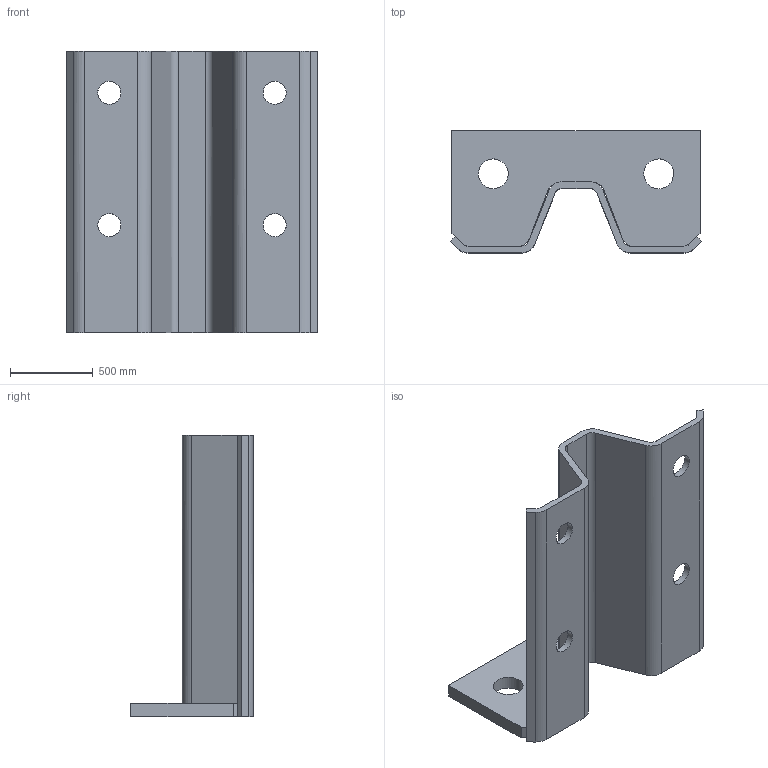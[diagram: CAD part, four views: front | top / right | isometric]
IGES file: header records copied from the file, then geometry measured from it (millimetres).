
Global section: file name: ZB200W100; native system: Autodesk RealDWG; preprocessor: Autodesk Translation Framework DWG producer (atf_dwg_producer); organization: unknown; date: 20241104.112335; units: centimetre
Bounding box: 1517.2 x 740 x 1700 mm (x, y, z)
Volume: 200126192.3 mm3; surface area: 9213673.7 mm2
Topology: 2 solids, 2 shells, 54 faces, 158 edges, 108 vertices
Faces by surface type: bspline 54
